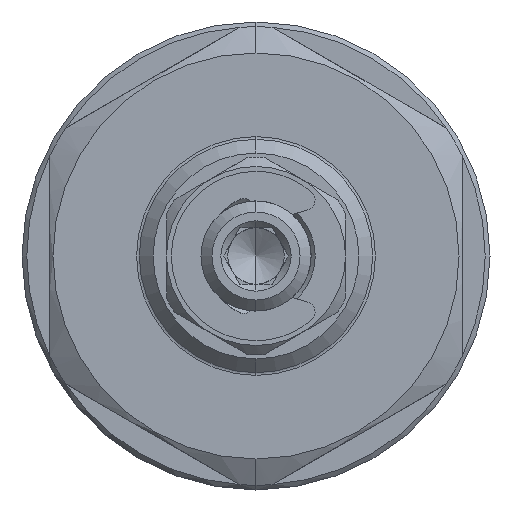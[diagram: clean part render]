
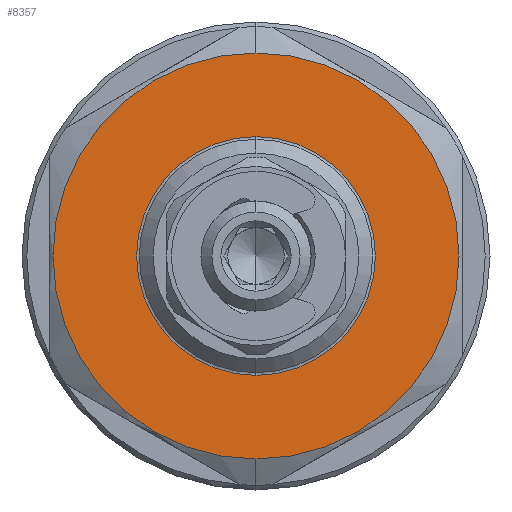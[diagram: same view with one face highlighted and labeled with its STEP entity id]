
A CAD part, left-side view. The second image highlights one B-rep face of the part: STEP entity #8357.
In plain terms, the highlighted planar face has unit normal (-1, 0, 0).
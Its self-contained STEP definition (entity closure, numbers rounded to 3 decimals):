
#33 = AXIS2_PLACEMENT_3D ( 'NONE', #7809, #10956, #4802 ) ;
#207 = CARTESIAN_POINT ( 'NONE',  ( -40.5, 0., 14.75 ) ) ;
#845 = EDGE_CURVE ( 'NONE', #11782, #1607, #9012, .T. ) ;
#976 = AXIS2_PLACEMENT_3D ( 'NONE', #8866, #6608, #3394 ) ;
#1288 = DIRECTION ( 'NONE',  ( -1., 0., 0. ) ) ;
#1393 = CIRCLE ( 'NONE', #3563, 8.672 ) ;
#1607 = VERTEX_POINT ( 'NONE', #207 ) ;
#1865 = VERTEX_POINT ( 'NONE', #6023 ) ;
#1952 = EDGE_CURVE ( 'NONE', #7489, #1865, #1393, .T. ) ;
#2124 = DIRECTION ( 'NONE',  ( 0., 0., 1. ) ) ;
#2290 = CARTESIAN_POINT ( 'NONE',  ( -40.5, 0., 0. ) ) ;
#2297 = ORIENTED_EDGE ( 'NONE', *, *, #845, .T. ) ;
#2361 = DIRECTION ( 'NONE',  ( 0., 0., 1. ) ) ;
#2362 = EDGE_CURVE ( 'NONE', #1607, #11782, #9089, .T. ) ;
#2455 = AXIS2_PLACEMENT_3D ( 'NONE', #9729, #1288, #2361 ) ;
#3212 = EDGE_LOOP ( 'NONE', ( #8867, #5397 ) ) ;
#3394 = DIRECTION ( 'NONE',  ( 0., 0., 1. ) ) ;
#3563 = AXIS2_PLACEMENT_3D ( 'NONE', #9487, #11427, #2124 ) ;
#4802 = DIRECTION ( 'NONE',  ( 0., 0., -1. ) ) ;
#5397 = ORIENTED_EDGE ( 'NONE', *, *, #8660, .F. ) ;
#6023 = CARTESIAN_POINT ( 'NONE',  ( -40.5, 0., -8.672 ) ) ;
#6036 = AXIS2_PLACEMENT_3D ( 'NONE', #2290, #12880, #7678 ) ;
#6548 = ORIENTED_EDGE ( 'NONE', *, *, #2362, .T. ) ;
#6608 = DIRECTION ( 'NONE',  ( -1., 0., 0. ) ) ;
#6926 = PLANE ( 'NONE',  #33 ) ;
#7489 = VERTEX_POINT ( 'NONE', #8317 ) ;
#7678 = DIRECTION ( 'NONE',  ( 0., 0., 1. ) ) ;
#7738 = CIRCLE ( 'NONE', #976, 8.672 ) ;
#7809 = CARTESIAN_POINT ( 'NONE',  ( -40.5, 8.672, 0. ) ) ;
#8317 = CARTESIAN_POINT ( 'NONE',  ( -40.5, 0., 8.672 ) ) ;
#8357 = ADVANCED_FACE ( 'NONE', ( #8555, #9842 ), #6926, .F. ) ;
#8555 = FACE_BOUND ( 'NONE', #3212, .T. ) ;
#8660 = EDGE_CURVE ( 'NONE', #1865, #7489, #7738, .T. ) ;
#8867 = ORIENTED_EDGE ( 'NONE', *, *, #1952, .F. ) ;
#8866 = CARTESIAN_POINT ( 'NONE',  ( -40.5, 0., 0. ) ) ;
#9012 = CIRCLE ( 'NONE', #2455, 14.75 ) ;
#9089 = CIRCLE ( 'NONE', #6036, 14.75 ) ;
#9487 = CARTESIAN_POINT ( 'NONE',  ( -40.5, 0., 0. ) ) ;
#9729 = CARTESIAN_POINT ( 'NONE',  ( -40.5, 0., 0. ) ) ;
#9842 = FACE_OUTER_BOUND ( 'NONE', #13024, .T. ) ;
#10956 = DIRECTION ( 'NONE',  ( 1., 0., 0. ) ) ;
#11427 = DIRECTION ( 'NONE',  ( -1., 0., 0. ) ) ;
#11782 = VERTEX_POINT ( 'NONE', #12694 ) ;
#12694 = CARTESIAN_POINT ( 'NONE',  ( -40.5, 0., -14.75 ) ) ;
#12880 = DIRECTION ( 'NONE',  ( -1., 0., 0. ) ) ;
#13024 = EDGE_LOOP ( 'NONE', ( #2297, #6548 ) ) ;
